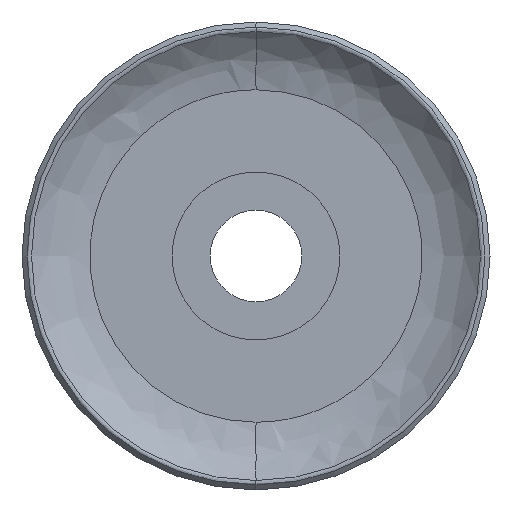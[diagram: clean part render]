
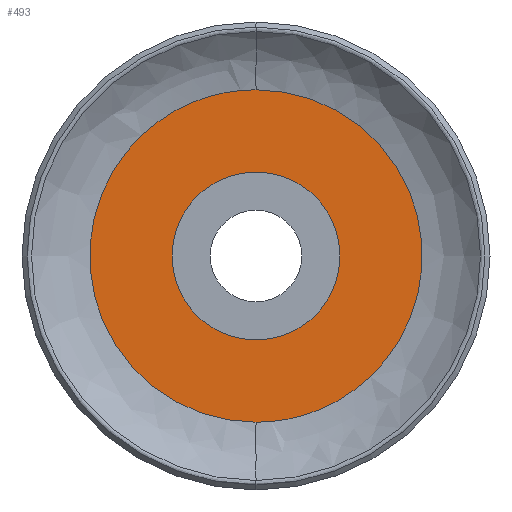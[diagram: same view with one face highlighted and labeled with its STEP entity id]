
A CAD part, front view. The second image highlights one B-rep face of the part: STEP entity #493.
In plain terms, the highlighted planar face has unit normal (0, -1, 0).
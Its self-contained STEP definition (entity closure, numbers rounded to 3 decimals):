
#12 = CARTESIAN_POINT ( 'NONE',  ( -4.077, 9.981, 10.885 ) ) ;
#45 = EDGE_CURVE ( 'NONE', #417, #285, #366, .T. ) ;
#47 = CARTESIAN_POINT ( 'NONE',  ( -36.863, 9.981, -11.016 ) ) ;
#78 = CIRCLE ( 'NONE', #186, 5.5 ) ;
#90 = CARTESIAN_POINT ( 'NONE',  ( -20.347, 9.981, 0. ) ) ;
#115 = ORIENTED_EDGE ( 'NONE', *, *, #173, .F. ) ;
#132 = ORIENTED_EDGE ( 'NONE', *, *, #45, .F. ) ;
#147 = PLANE ( 'NONE',  #273 ) ;
#158 = CARTESIAN_POINT ( 'NONE',  ( -47.617, 9.981, 10.885 ) ) ;
#173 = EDGE_CURVE ( 'NONE', #511, #474, #512, .T. ) ;
#186 = AXIS2_PLACEMENT_3D ( 'NONE', #188, #465, #606 ) ;
#188 = CARTESIAN_POINT ( 'NONE',  ( -25.847, 9.981, 0. ) ) ;
#218 = CARTESIAN_POINT ( 'NONE',  ( -25.847, 9.981, -10.885 ) ) ;
#233 = EDGE_LOOP ( 'NONE', ( #398, #115 ) ) ;
#273 = AXIS2_PLACEMENT_3D ( 'NONE', #47, #506, #401 ) ;
#285 = VERTEX_POINT ( 'NONE', #218 ) ;
#287 = DIRECTION ( 'NONE',  ( 0., -1., 0. ) ) ;
#320 = CARTESIAN_POINT ( 'NONE',  ( -25.847, 9.981, -10.885 ) ) ;
#323 = CARTESIAN_POINT ( 'NONE',  ( -25.847, 9.981, 10.885 ) ) ;
#346 = CARTESIAN_POINT ( 'NONE',  ( -25.847, 9.981, 0. ) ) ;
#355 = CARTESIAN_POINT ( 'NONE',  ( -31.347, 9.981, 0. ) ) ;
#366 =( BOUNDED_CURVE ( )  B_SPLINE_CURVE ( 3, ( #433, #12, #640, #576 ),
 .UNSPECIFIED., .F., .F. ) 
 B_SPLINE_CURVE_WITH_KNOTS ( ( 4, 4 ),
 ( 0., 0.034 ),
 .UNSPECIFIED. ) 
 CURVE ( )  GEOMETRIC_REPRESENTATION_ITEM ( )  RATIONAL_B_SPLINE_CURVE ( ( 0.979, 0.326, 0.326, 0.979 ) ) 
 REPRESENTATION_ITEM ( '' )  );
#398 = ORIENTED_EDGE ( 'NONE', *, *, #558, .F. ) ;
#401 = DIRECTION ( 'NONE',  ( 0., 0., 1. ) ) ;
#404 = FACE_BOUND ( 'NONE', #233, .T. ) ;
#417 = VERTEX_POINT ( 'NONE', #602 ) ;
#419 = AXIS2_PLACEMENT_3D ( 'NONE', #346, #287, #500 ) ;
#433 = CARTESIAN_POINT ( 'NONE',  ( -25.847, 9.981, 10.885 ) ) ;
#434 =( BOUNDED_CURVE ( )  B_SPLINE_CURVE ( 3, ( #320, #626, #158, #323 ),
 .UNSPECIFIED., .F., .T. ) 
 B_SPLINE_CURVE_WITH_KNOTS ( ( 4, 4 ),
 ( 0., 0.034 ),
 .UNSPECIFIED. ) 
 CURVE ( )  GEOMETRIC_REPRESENTATION_ITEM ( )  RATIONAL_B_SPLINE_CURVE ( ( 0.979, 0.326, 0.326, 0.979 ) ) 
 REPRESENTATION_ITEM ( '' )  );
#465 = DIRECTION ( 'NONE',  ( 0., -1., 0. ) ) ;
#474 = VERTEX_POINT ( 'NONE', #90 ) ;
#493 = ADVANCED_FACE ( 'NONE', ( #404, #604 ), #147, .F. ) ;
#500 = DIRECTION ( 'NONE',  ( 1., 0., 0. ) ) ;
#506 = DIRECTION ( 'NONE',  ( 0., 1., 0. ) ) ;
#511 = VERTEX_POINT ( 'NONE', #355 ) ;
#512 = CIRCLE ( 'NONE', #419, 5.5 ) ;
#558 = EDGE_CURVE ( 'NONE', #474, #511, #78, .T. ) ;
#576 = CARTESIAN_POINT ( 'NONE',  ( -25.847, 9.981, -10.885 ) ) ;
#587 = EDGE_LOOP ( 'NONE', ( #666, #132 ) ) ;
#602 = CARTESIAN_POINT ( 'NONE',  ( -25.847, 9.981, 10.885 ) ) ;
#604 = FACE_OUTER_BOUND ( 'NONE', #587, .T. ) ;
#606 = DIRECTION ( 'NONE',  ( 1., 0., 0. ) ) ;
#626 = CARTESIAN_POINT ( 'NONE',  ( -47.617, 9.981, -10.885 ) ) ;
#640 = CARTESIAN_POINT ( 'NONE',  ( -4.077, 9.981, -10.885 ) ) ;
#666 = ORIENTED_EDGE ( 'NONE', *, *, #668, .F. ) ;
#668 = EDGE_CURVE ( 'NONE', #285, #417, #434, .T. ) ;
